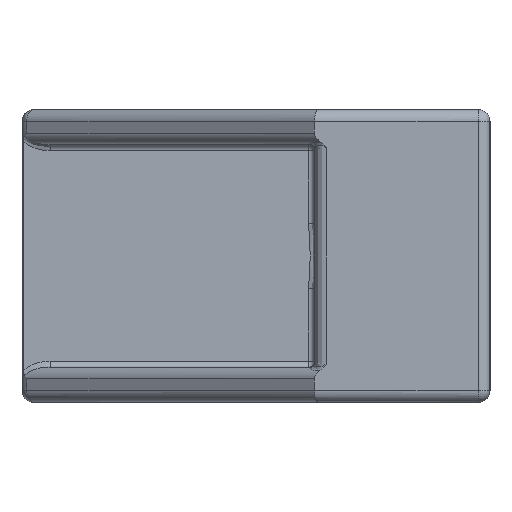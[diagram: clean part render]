
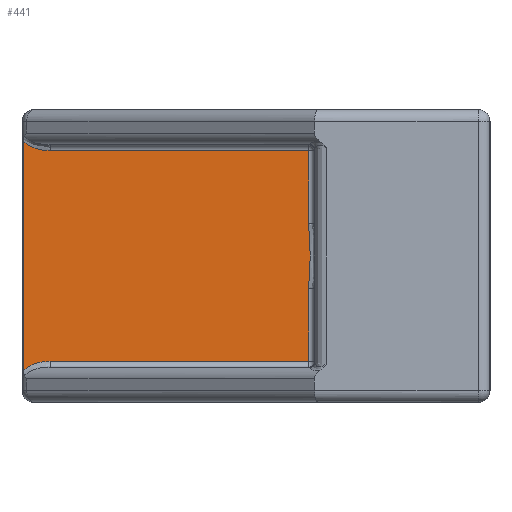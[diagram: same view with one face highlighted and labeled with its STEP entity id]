
A CAD part, left-side view. The second image highlights one B-rep face of the part: STEP entity #441.
In plain terms, the highlighted planar face has unit normal (-1, 0, 0).
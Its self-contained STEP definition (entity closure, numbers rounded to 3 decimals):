
#58 = DIRECTION ( 'NONE',  ( -1., 0., 0. ) ) ;
#93 = VERTEX_POINT ( 'NONE', #1345 ) ;
#110 = VECTOR ( 'NONE', #967, 1000. ) ;
#113 = ORIENTED_EDGE ( 'NONE', *, *, #2926, .T. ) ;
#223 = CARTESIAN_POINT ( 'NONE',  ( -145.18, 39.401, 29.681 ) ) ;
#234 = EDGE_CURVE ( 'NONE', #93, #1268, #488, .T. ) ;
#271 = DIRECTION ( 'NONE',  ( 0., 0., 1. ) ) ;
#318 = CARTESIAN_POINT ( 'NONE',  ( -145.18, 40., 29.388 ) ) ;
#360 = CARTESIAN_POINT ( 'NONE',  ( -145.18, 15.394, 19.459 ) ) ;
#365 = ORIENTED_EDGE ( 'NONE', *, *, #1804, .T. ) ;
#407 = B_SPLINE_CURVE_WITH_KNOTS ( 'NONE', 3,
 ( #1630, #2861, #2251, #360, #2560, #684, #2878, #1014, #3201, #1332 ),
 .UNSPECIFIED., .F., .F.,
 ( 4, 2, 2, 2, 4 ),
 ( 0., 0.001, 0.003, 0.004, 0.006 ),
 .UNSPECIFIED. ) ;
#409 = CARTESIAN_POINT ( 'NONE',  ( -145.18, 15.5, 20.388 ) ) ;
#441 = ADVANCED_FACE ( 'NONE', ( #3852 ), #1340, .T. ) ;
#488 =( BOUNDED_CURVE ( )  B_SPLINE_CURVE ( 3, ( #1118, #3923, #223, #3118 ),
 .UNSPECIFIED., .F., .F. ) 
 B_SPLINE_CURVE_WITH_KNOTS ( ( 4, 4 ),
 ( 1.571, 2.651 ),
 .UNSPECIFIED. ) 
 CURVE ( )  GEOMETRIC_REPRESENTATION_ITEM ( )  RATIONAL_B_SPLINE_CURVE ( ( 1., 0.905, 0.905, 1. ) ) 
 REPRESENTATION_ITEM ( '' )  );
#603 = VERTEX_POINT ( 'NONE', #2568 ) ;
#642 = EDGE_CURVE ( 'NONE', #603, #864, #945, .T. ) ;
#684 = CARTESIAN_POINT ( 'NONE',  ( -145.18, 15.366, 20.851 ) ) ;
#686 = VERTEX_POINT ( 'NONE', #2404 ) ;
#703 = EDGE_LOOP ( 'NONE', ( #1358, #3290, #1116, #2080, #2430, #113, #365, #2719 ) ) ;
#813 = VERTEX_POINT ( 'NONE', #1401 ) ;
#827 = CARTESIAN_POINT ( 'NONE',  ( -145.18, 39.401, 11.096 ) ) ;
#847 = LINE ( 'NONE', #409, #2494 ) ;
#864 = VERTEX_POINT ( 'NONE', #1129 ) ;
#945 =( BOUNDED_CURVE ( )  B_SPLINE_CURVE ( 3, ( #1344, #827, #1472, #3646 ),
 .UNSPECIFIED., .F., .F. ) 
 B_SPLINE_CURVE_WITH_KNOTS ( ( 4, 4 ),
 ( 0.49, 1.571 ),
 .UNSPECIFIED. ) 
 CURVE ( )  GEOMETRIC_REPRESENTATION_ITEM ( )  RATIONAL_B_SPLINE_CURVE ( ( 1., 0.905, 0.905, 1. ) ) 
 REPRESENTATION_ITEM ( '' )  );
#967 = DIRECTION ( 'NONE',  ( 0., 1., 0. ) ) ;
#1014 = CARTESIAN_POINT ( 'NONE',  ( -145.18, 15.462, 22.243 ) ) ;
#1018 = CARTESIAN_POINT ( 'NONE',  ( -145.18, 40., 0. ) ) ;
#1116 = ORIENTED_EDGE ( 'NONE', *, *, #2037, .T. ) ;
#1118 = CARTESIAN_POINT ( 'NONE',  ( -145.18, 37.594, 29.388 ) ) ;
#1129 = CARTESIAN_POINT ( 'NONE',  ( -145.18, 37.594, 11.388 ) ) ;
#1140 = EDGE_CURVE ( 'NONE', #813, #1297, #847, .T. ) ;
#1141 = LINE ( 'NONE', #1895, #1850 ) ;
#1220 = AXIS2_PLACEMENT_3D ( 'NONE', #1018, #58, #2275 ) ;
#1268 = VERTEX_POINT ( 'NONE', #2266 ) ;
#1297 = VERTEX_POINT ( 'NONE', #2875 ) ;
#1332 = CARTESIAN_POINT ( 'NONE',  ( -145.18, 15.5, 23.172 ) ) ;
#1340 = PLANE ( 'NONE',  #1220 ) ;
#1344 = CARTESIAN_POINT ( 'NONE',  ( -145.18, 39.859, 10.595 ) ) ;
#1345 = CARTESIAN_POINT ( 'NONE',  ( -145.18, 37.594, 29.388 ) ) ;
#1358 = ORIENTED_EDGE ( 'NONE', *, *, #1581, .T. ) ;
#1401 = CARTESIAN_POINT ( 'NONE',  ( -145.18, 15.5, 11.388 ) ) ;
#1472 = CARTESIAN_POINT ( 'NONE',  ( -145.18, 38.567, 11.388 ) ) ;
#1581 = EDGE_CURVE ( 'NONE', #1268, #603, #2469, .T. ) ;
#1630 = CARTESIAN_POINT ( 'NONE',  ( -145.18, 15.5, 17.604 ) ) ;
#1665 = VECTOR ( 'NONE', #3383, 1000. ) ;
#1804 = EDGE_CURVE ( 'NONE', #686, #93, #2626, .T. ) ;
#1849 = CARTESIAN_POINT ( 'NONE',  ( -145.18, 15.5, 29.888 ) ) ;
#1850 = VECTOR ( 'NONE', #4070, 1000. ) ;
#1895 = CARTESIAN_POINT ( 'NONE',  ( -145.18, 40., 11.388 ) ) ;
#2037 = EDGE_CURVE ( 'NONE', #864, #813, #1141, .T. ) ;
#2080 = ORIENTED_EDGE ( 'NONE', *, *, #1140, .T. ) ;
#2251 = CARTESIAN_POINT ( 'NONE',  ( -145.18, 15.462, 18.532 ) ) ;
#2266 = CARTESIAN_POINT ( 'NONE',  ( -145.18, 39.859, 30.182 ) ) ;
#2275 = DIRECTION ( 'NONE',  ( 0., 0., -1. ) ) ;
#2404 = CARTESIAN_POINT ( 'NONE',  ( -145.18, 15.5, 29.388 ) ) ;
#2430 = ORIENTED_EDGE ( 'NONE', *, *, #3843, .T. ) ;
#2469 = LINE ( 'NONE', #3063, #1665 ) ;
#2494 = VECTOR ( 'NONE', #3217, 1000. ) ;
#2560 = CARTESIAN_POINT ( 'NONE',  ( -145.18, 15.366, 19.923 ) ) ;
#2568 = CARTESIAN_POINT ( 'NONE',  ( -145.18, 39.859, 10.595 ) ) ;
#2626 = LINE ( 'NONE', #318, #110 ) ;
#2719 = ORIENTED_EDGE ( 'NONE', *, *, #234, .T. ) ;
#2780 = CARTESIAN_POINT ( 'NONE',  ( -145.18, 15.5, 23.172 ) ) ;
#2861 = CARTESIAN_POINT ( 'NONE',  ( -145.18, 15.5, 18.069 ) ) ;
#2875 = CARTESIAN_POINT ( 'NONE',  ( -145.18, 15.5, 17.604 ) ) ;
#2878 = CARTESIAN_POINT ( 'NONE',  ( -145.18, 15.394, 21.315 ) ) ;
#2926 = EDGE_CURVE ( 'NONE', #3275, #686, #3190, .T. ) ;
#3063 = CARTESIAN_POINT ( 'NONE',  ( -145.18, 39.859, 30.491 ) ) ;
#3118 = CARTESIAN_POINT ( 'NONE',  ( -145.18, 39.859, 30.182 ) ) ;
#3190 = LINE ( 'NONE', #1849, #3933 ) ;
#3201 = CARTESIAN_POINT ( 'NONE',  ( -145.18, 15.5, 22.707 ) ) ;
#3217 = DIRECTION ( 'NONE',  ( 0., 0., 1. ) ) ;
#3275 = VERTEX_POINT ( 'NONE', #2780 ) ;
#3290 = ORIENTED_EDGE ( 'NONE', *, *, #642, .T. ) ;
#3383 = DIRECTION ( 'NONE',  ( 0., 0., -1. ) ) ;
#3646 = CARTESIAN_POINT ( 'NONE',  ( -145.18, 37.594, 11.388 ) ) ;
#3843 = EDGE_CURVE ( 'NONE', #1297, #3275, #407, .T. ) ;
#3852 = FACE_OUTER_BOUND ( 'NONE', #703, .T. ) ;
#3923 = CARTESIAN_POINT ( 'NONE',  ( -145.18, 38.567, 29.388 ) ) ;
#3933 = VECTOR ( 'NONE', #271, 1000. ) ;
#4070 = DIRECTION ( 'NONE',  ( 0., -1., 0. ) ) ;
